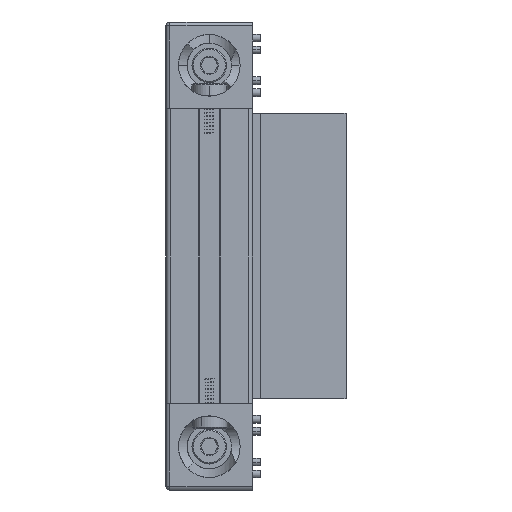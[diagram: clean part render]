
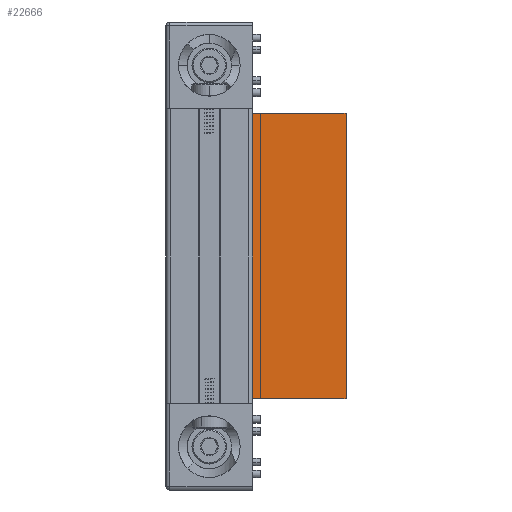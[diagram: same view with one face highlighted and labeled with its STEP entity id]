
A CAD part, left-side view. The second image highlights one B-rep face of the part: STEP entity #22666.
In plain terms, the highlighted planar face has unit normal (-1, 0, 0) as drawn and (0, 0, 1) by its records, which use the part's own axes.
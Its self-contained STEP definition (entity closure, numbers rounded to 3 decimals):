
#3037 = CARTESIAN_POINT ( 'NONE',  ( 74., 0., 69.85 ) ) ;
#3380 = EDGE_CURVE ( 'NONE', #19349, #13746, #36127, .T. ) ;
#3422 = EDGE_CURVE ( 'NONE', #17791, #13746, #23322, .T. ) ;
#4004 = DIRECTION ( 'NONE',  ( 1., 0., 0. ) ) ;
#6944 = CARTESIAN_POINT ( 'NONE',  ( -74., 0., 69.85 ) ) ;
#11906 = VECTOR ( 'NONE', #4004, 1000. ) ;
#13746 = VERTEX_POINT ( 'NONE', #40386 ) ;
#15446 = DIRECTION ( 'NONE',  ( 0., 0., 1. ) ) ;
#15641 = VERTEX_POINT ( 'NONE', #37002 ) ;
#17528 = LINE ( 'NONE', #6944, #50453 ) ;
#17757 = EDGE_CURVE ( 'NONE', #15641, #19349, #17528, .T. ) ;
#17791 = VERTEX_POINT ( 'NONE', #3037 ) ;
#18759 = ORIENTED_EDGE ( 'NONE', *, *, #3380, .F. ) ;
#19245 = EDGE_LOOP ( 'NONE', ( #18759, #31264, #48012, #43287 ) ) ;
#19349 = VERTEX_POINT ( 'NONE', #22686 ) ;
#22666 = ADVANCED_FACE ( 'NONE', ( #52252 ), #53923, .T. ) ;
#22686 = CARTESIAN_POINT ( 'NONE',  ( -74., 50.8, 69.85 ) ) ;
#23322 = LINE ( 'NONE', #39974, #44850 ) ;
#25076 = CARTESIAN_POINT ( 'NONE',  ( -74., 50.8, 69.85 ) ) ;
#27235 = VECTOR ( 'NONE', #37580, 1000. ) ;
#29098 = CARTESIAN_POINT ( 'NONE',  ( -74., 0., 69.85 ) ) ;
#29957 = LINE ( 'NONE', #29098, #27235 ) ;
#30028 = EDGE_CURVE ( 'NONE', #15641, #17791, #29957, .T. ) ;
#31264 = ORIENTED_EDGE ( 'NONE', *, *, #17757, .F. ) ;
#36127 = LINE ( 'NONE', #25076, #11906 ) ;
#36992 = DIRECTION ( 'NONE',  ( 0., 1., 0. ) ) ;
#37002 = CARTESIAN_POINT ( 'NONE',  ( -74., 0., 69.85 ) ) ;
#37580 = DIRECTION ( 'NONE',  ( 1., 0., 0. ) ) ;
#38520 = DIRECTION ( 'NONE',  ( 0., 1., 0. ) ) ;
#39974 = CARTESIAN_POINT ( 'NONE',  ( 74., 0., 69.85 ) ) ;
#40386 = CARTESIAN_POINT ( 'NONE',  ( 74., 50.8, 69.85 ) ) ;
#41168 = CARTESIAN_POINT ( 'NONE',  ( -74., 0., 69.85 ) ) ;
#43287 = ORIENTED_EDGE ( 'NONE', *, *, #3422, .T. ) ;
#44850 = VECTOR ( 'NONE', #38520, 1000. ) ;
#45489 = DIRECTION ( 'NONE',  ( 1., 0., 0. ) ) ;
#47774 = AXIS2_PLACEMENT_3D ( 'NONE', #41168, #15446, #45489 ) ;
#48012 = ORIENTED_EDGE ( 'NONE', *, *, #30028, .T. ) ;
#50453 = VECTOR ( 'NONE', #36992, 1000. ) ;
#52252 = FACE_OUTER_BOUND ( 'NONE', #19245, .T. ) ;
#53923 = PLANE ( 'NONE',  #47774 ) ;
